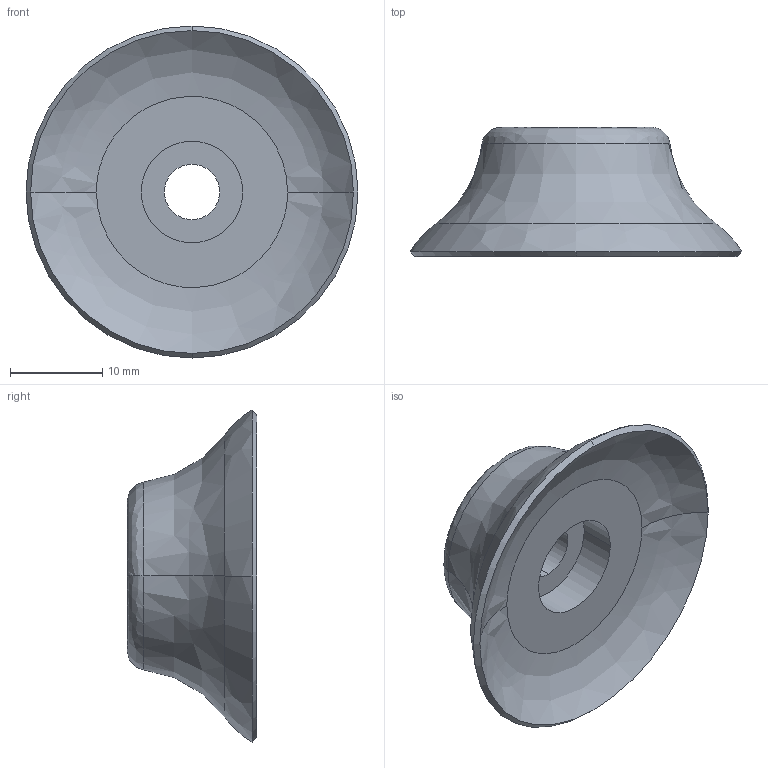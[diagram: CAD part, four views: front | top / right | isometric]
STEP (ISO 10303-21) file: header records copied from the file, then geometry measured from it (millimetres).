
FILE_DESCRIPTION (( 'STEP AP214' ), '1' );
FILE_NAME ('PFG-35.STEP', '2023-03-07T05:49:20', ( 'Windows User' ), ( 'P R C' ), 'SwSTEP 2.0', 'SolidWorks 2019', '' );
FILE_SCHEMA (( 'AUTOMOTIVE_DESIGN' ));
Length unit declared in the file: millimetre
Products named in the file (1): PFG-35
Bounding box: 35.99 x 14 x 35.99 mm (x, y, z)
Volume: 4825.5 mm3; surface area: 2939.4 mm2
Topology: 1 solids, 1 shells, 17 faces, 38 edges, 24 vertices
Faces by surface type: bspline 8, cylinder 4, plane 3, cone 2
Entity records: 876 total; most frequent: CARTESIAN_POINT 504, ORIENTED_EDGE 76, DIRECTION 66, EDGE_CURVE 38, AXIS2_PLACEMENT_3D 30, VERTEX_POINT 24, EDGE_LOOP 20, CIRCLE 20
